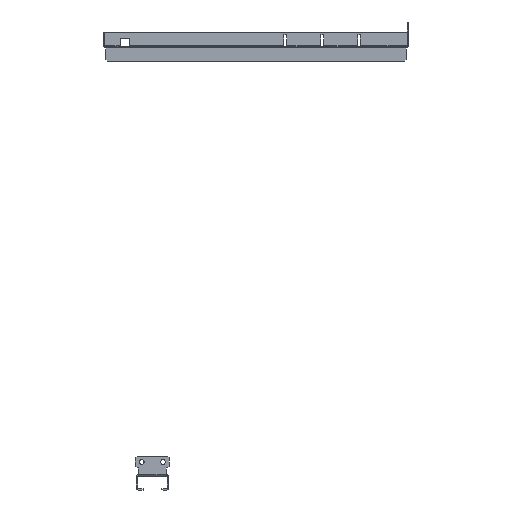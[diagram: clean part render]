
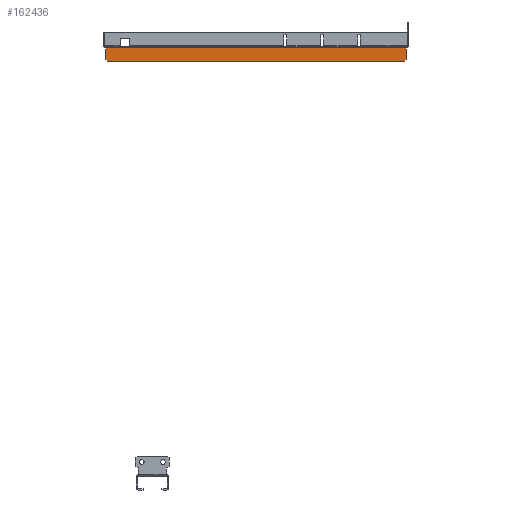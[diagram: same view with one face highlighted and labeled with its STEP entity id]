
A CAD part, front view. The second image highlights one B-rep face of the part: STEP entity #162436.
In plain terms, the highlighted planar face has unit normal (0, -1, 0).
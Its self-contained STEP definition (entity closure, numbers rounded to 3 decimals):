
#80316=CARTESIAN_POINT(' ',(-177.,769.5,-16.));
#80317=VERTEX_POINT(' ',#80316);
#80331=CARTESIAN_POINT(' ',(-177.,769.5,-16.));
#80336=DIRECTION(' ',(0.,0.,1.));
#80341=VECTOR(' ',#80336,1.);
#80346=LINE('',#80331,#80341);
#80351=CARTESIAN_POINT(' ',(-177.,769.5,-2.1));
#80352=VERTEX_POINT(' ',#80351);
#80356=EDGE_CURVE(' ',#80317,#80352,#80346,.T.);
#80541=CARTESIAN_POINT(' ',(-177.,769.5,-2.1));
#80546=DIRECTION(' ',(1.,0.,0.));
#80551=VECTOR(' ',#80546,1.);
#80556=LINE('',#80541,#80551);
#80561=CARTESIAN_POINT(' ',(177.,769.5,-2.1));
#80562=VERTEX_POINT(' ',#80561);
#80566=EDGE_CURVE(' ',#80352,#80562,#80556,.T.);
#80661=CARTESIAN_POINT(' ',(177.,769.5,-2.1));
#80666=DIRECTION(' ',(0.,0.,-1.));
#80671=VECTOR(' ',#80666,1.);
#80676=LINE('',#80661,#80671);
#80681=CARTESIAN_POINT(' ',(177.,769.5,-16.));
#80682=VERTEX_POINT(' ',#80681);
#80686=EDGE_CURVE(' ',#80562,#80682,#80676,.T.);
#162251=CARTESIAN_POINT(' ',(-175.,769.5,-18.));
#162252=VERTEX_POINT(' ',#162251);
#162266=CARTESIAN_POINT(' ',(-177.,769.5,-16.));
#162271=DIRECTION(' ',(0.707,0.,-0.707));
#162276=VECTOR(' ',#162271,1.);
#162281=LINE('',#162266,#162276);
#162286=EDGE_CURVE(' ',#80317,#162252,#162281,.T.);
#162316=DIRECTION(' ',(0.,-1.,0.));
#162321=CARTESIAN_POINT(' ',(-177.,769.5,-2.1));
#162326=DIRECTION(' ',(0.,0.,-1.));
#162331=AXIS2_PLACEMENT_3D(' ',#162321,#162316,#162326);
#162336=PLANE('NONE',#162331);
#162341=ORIENTED_EDGE(' ',*,*,#80356,.F.);
#162346=ORIENTED_EDGE(' ',*,*,#162286,.T.);
#162351=CARTESIAN_POINT(' ',(175.,769.5,-18.));
#162356=DIRECTION(' ',(-1.,0.,0.));
#162361=VECTOR(' ',#162356,1.);
#162366=LINE('',#162351,#162361);
#162371=CARTESIAN_POINT(' ',(175.,769.5,-18.));
#162372=VERTEX_POINT(' ',#162371);
#162376=EDGE_CURVE(' ',#162372,#162252,#162366,.T.);
#162381=ORIENTED_EDGE(' ',*,*,#162376,.F.);
#162386=CARTESIAN_POINT(' ',(175.,769.5,-18.));
#162391=DIRECTION(' ',(0.707,0.,0.707));
#162396=VECTOR(' ',#162391,1.);
#162401=LINE('',#162386,#162396);
#162406=EDGE_CURVE(' ',#162372,#80682,#162401,.T.);
#162411=ORIENTED_EDGE(' ',*,*,#162406,.T.);
#162416=ORIENTED_EDGE(' ',*,*,#80686,.F.);
#162421=ORIENTED_EDGE(' ',*,*,#80566,.F.);
#162426=EDGE_LOOP(' ',(#162341,#162346,#162381,#162411,#162416,#162421));
#162431=FACE_OUTER_BOUND(' ',#162426,.T.);
#162436=ADVANCED_FACE('NONE',(#162431),#162336,.T.);
